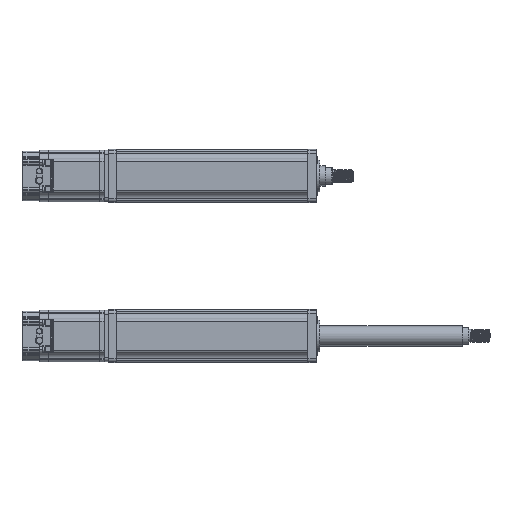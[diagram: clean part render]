
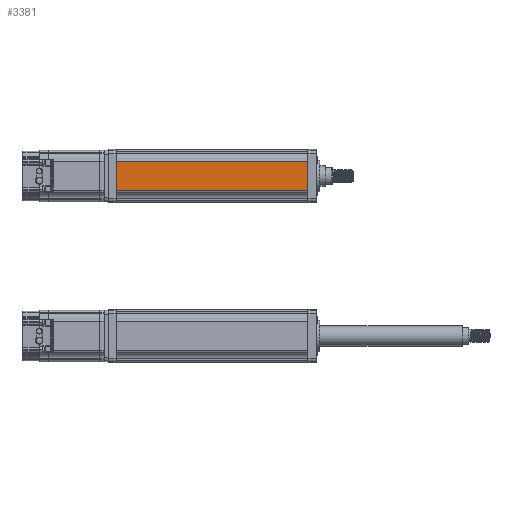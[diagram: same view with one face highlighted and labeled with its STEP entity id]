
A CAD part, top view. The second image highlights one B-rep face of the part: STEP entity #3381.
In plain terms, the highlighted planar face has unit normal (0, 0, 1).
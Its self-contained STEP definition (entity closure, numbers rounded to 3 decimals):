
#3381=ADVANCED_FACE('',(#7821),#7822,.F.);
#7821=FACE_OUTER_BOUND('',#14124,.T.);
#7822=PLANE('',#14125);
#14124=EDGE_LOOP('',(#32367,#32368,#32369,#32370));
#14125=AXIS2_PLACEMENT_3D('',#32371,#32372,#32373);
#32367=ORIENTED_EDGE('',*,*,#46770,.F.);
#32368=ORIENTED_EDGE('',*,*,#47690,.F.);
#32369=ORIENTED_EDGE('',*,*,#46248,.F.);
#32370=ORIENTED_EDGE('',*,*,#46458,.F.);
#32371=CARTESIAN_POINT('',(604.0,182.885,203.67));
#32372=DIRECTION('',(0.,0.,-1.0));
#32373=DIRECTION('',(1.0,0.,0.));
#46248=EDGE_CURVE('',#54160,#54162,#54163,.T.);
#46458=EDGE_CURVE('',#54514,#54160,#54516,.T.);
#46770=EDGE_CURVE('',#55033,#54514,#55035,.T.);
#47690=EDGE_CURVE('',#54162,#55033,#56513,.T.);
#54160=VERTEX_POINT('',#69178);
#54162=VERTEX_POINT('',#69180);
#54163=LINE('',#69181,#69182);
#54514=VERTEX_POINT('',#70170);
#54516=LINE('',#70172,#70173);
#55033=VERTEX_POINT('',#72413);
#55035=LINE('',#72415,#72416);
#56513=LINE('',#78164,#78165);
#69178=CARTESIAN_POINT('',(604.0,182.885,203.67));
#69180=CARTESIAN_POINT('',(814.0,182.885,203.67));
#69181=CARTESIAN_POINT('',(709.0,182.885,203.67));
#69182=VECTOR('',#106984,1.313);
#70170=CARTESIAN_POINT('',(604.0,150.885,203.67));
#70172=CARTESIAN_POINT('',(604.0,166.885,203.67));
#70173=VECTOR('',#107241,1.0);
#72413=CARTESIAN_POINT('',(814.0,150.885,203.67));
#72415=CARTESIAN_POINT('',(709.0,150.885,203.67));
#72416=VECTOR('',#107628,1.313);
#78164=CARTESIAN_POINT('',(814.0,166.885,203.67));
#78165=VECTOR('',#108575,1.0);
#106984=DIRECTION('',(1.0,0.,0.));
#107241=DIRECTION('',(0.,1.0,0.0));
#107628=DIRECTION('',(-1.0,0.,0.));
#108575=DIRECTION('',(0.,-1.0,0.0));
